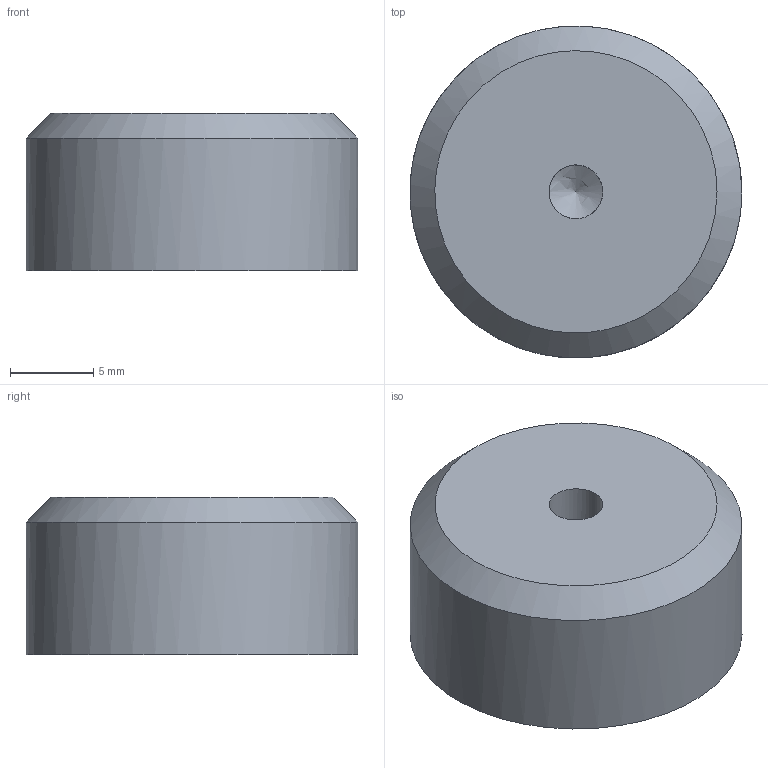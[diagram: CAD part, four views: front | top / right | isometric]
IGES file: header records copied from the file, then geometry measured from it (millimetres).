
Global section: file name: DR_B-MP1; native system: Autodesk Inventor 2015; preprocessor: unknown; author: Administrator; date: 20170907.153312; units: millimetre
Bounding box: 19.99 x 19.98 x 9.5 mm (x, y, z)
Volume: 2885.9 mm3; surface area: 1210.4 mm2
Topology: 1 solids, 1 shells, 6 faces, 12 edges, 8 vertices
Faces by surface type: bspline 6
